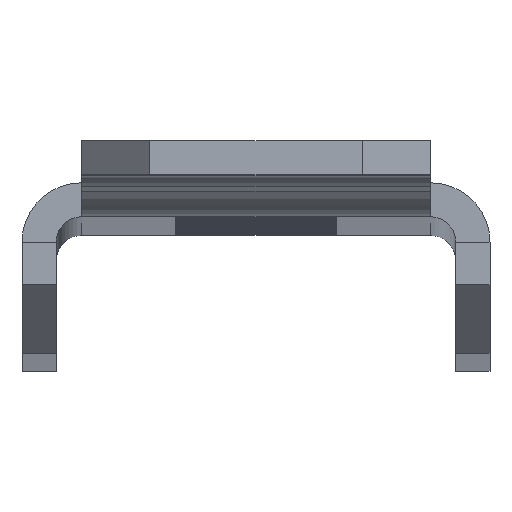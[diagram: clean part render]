
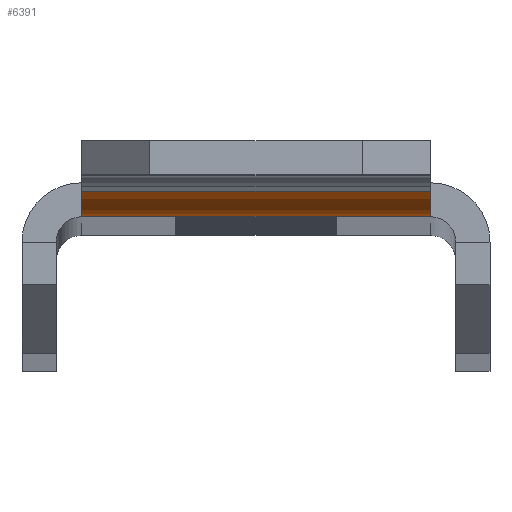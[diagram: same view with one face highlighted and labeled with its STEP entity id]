
A CAD part, top view. The second image highlights one B-rep face of the part: STEP entity #6391.
In plain terms, the highlighted cylindrical face has radius 3.5 mm (diameter 7 mm), a partial arc.
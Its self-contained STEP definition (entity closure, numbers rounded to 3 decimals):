
#450 = FACE_OUTER_BOUND ( 'NONE', #3834, .T. ) ;
#476 = VECTOR ( 'NONE', #2317, 1000. ) ;
#721 = EDGE_CURVE ( 'NONE', #4263, #6206, #6859, .T. ) ;
#1458 = EDGE_CURVE ( 'NONE', #6206, #3667, #4919, .T. ) ;
#1659 = DIRECTION ( 'NONE',  ( 1., 0., 0. ) ) ;
#1797 = CARTESIAN_POINT ( 'NONE',  ( 10.25, -2., 314.678 ) ) ;
#2222 = CARTESIAN_POINT ( 'NONE',  ( 10.25, -0.508, 317.545 ) ) ;
#2284 = CARTESIAN_POINT ( 'NONE',  ( -10.25, 1.5, 314.678 ) ) ;
#2317 = DIRECTION ( 'NONE',  ( -1., 0., 0. ) ) ;
#2407 = CIRCLE ( 'NONE', #5176, 3.5 ) ;
#2785 = DIRECTION ( 'NONE',  ( 0., 0., -1. ) ) ;
#3070 = CARTESIAN_POINT ( 'NONE',  ( -10.25, -0.508, 317.545 ) ) ;
#3169 = ORIENTED_EDGE ( 'NONE', *, *, #3573, .F. ) ;
#3333 = DIRECTION ( 'NONE',  ( 0., -0.574, 0.819 ) ) ;
#3402 = DIRECTION ( 'NONE',  ( -1., 0., 0. ) ) ;
#3573 = EDGE_CURVE ( 'NONE', #4787, #4263, #2407, .T. ) ;
#3667 = VERTEX_POINT ( 'NONE', #6918 ) ;
#3812 = LINE ( 'NONE', #3070, #4161 ) ;
#3816 = EDGE_CURVE ( 'NONE', #4787, #3667, #3812, .T. ) ;
#3834 = EDGE_LOOP ( 'NONE', ( #5201, #3169, #3859, #6316 ) ) ;
#3859 = ORIENTED_EDGE ( 'NONE', *, *, #3816, .T. ) ;
#4161 = VECTOR ( 'NONE', #4762, 1000. ) ;
#4263 = VERTEX_POINT ( 'NONE', #1797 ) ;
#4460 = CYLINDRICAL_SURFACE ( 'NONE', #5755, 3.5 ) ;
#4653 = CARTESIAN_POINT ( 'NONE',  ( 10.25, -2., 314.678 ) ) ;
#4762 = DIRECTION ( 'NONE',  ( -1., 0., 0. ) ) ;
#4787 = VERTEX_POINT ( 'NONE', #2222 ) ;
#4919 = CIRCLE ( 'NONE', #5719, 3.5 ) ;
#5089 = DIRECTION ( 'NONE',  ( 0., 0., -1. ) ) ;
#5176 = AXIS2_PLACEMENT_3D ( 'NONE', #5916, #1659, #2785 ) ;
#5201 = ORIENTED_EDGE ( 'NONE', *, *, #721, .F. ) ;
#5557 = CARTESIAN_POINT ( 'NONE',  ( 10.25, 1.5, 314.678 ) ) ;
#5719 = AXIS2_PLACEMENT_3D ( 'NONE', #2284, #3402, #5089 ) ;
#5755 = AXIS2_PLACEMENT_3D ( 'NONE', #5557, #6106, #3333 ) ;
#5916 = CARTESIAN_POINT ( 'NONE',  ( 10.25, 1.5, 314.678 ) ) ;
#6106 = DIRECTION ( 'NONE',  ( 1., 0., 0. ) ) ;
#6206 = VERTEX_POINT ( 'NONE', #7096 ) ;
#6316 = ORIENTED_EDGE ( 'NONE', *, *, #1458, .F. ) ;
#6391 = ADVANCED_FACE ( 'NONE', ( #450 ), #4460, .T. ) ;
#6859 = LINE ( 'NONE', #4653, #476 ) ;
#6918 = CARTESIAN_POINT ( 'NONE',  ( -10.25, -0.508, 317.545 ) ) ;
#7096 = CARTESIAN_POINT ( 'NONE',  ( -10.25, -2., 314.678 ) ) ;
